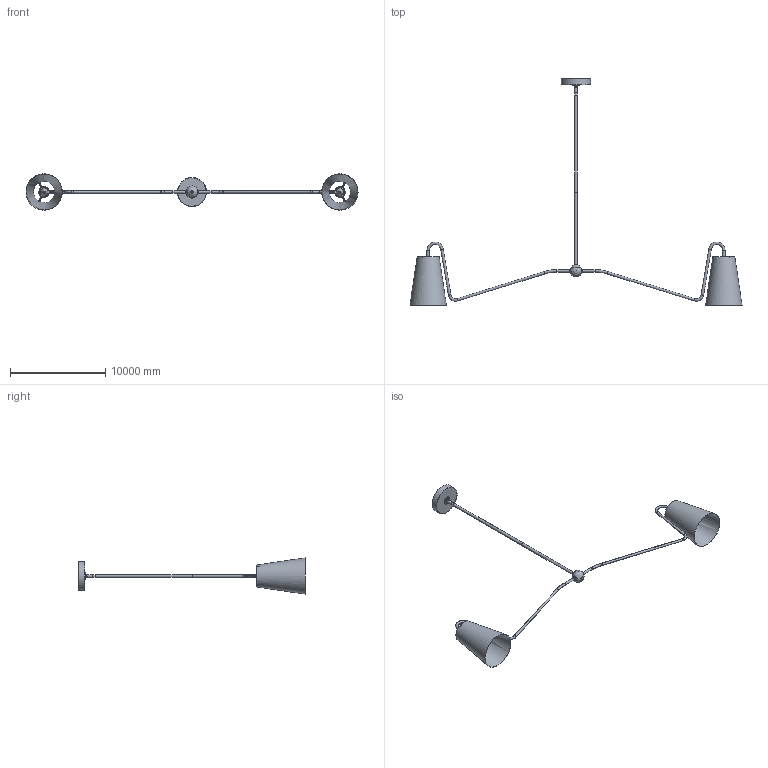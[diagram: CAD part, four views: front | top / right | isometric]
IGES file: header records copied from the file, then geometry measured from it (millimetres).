
Global section: file name: Jonas Linear Pendant Lamp; native system: AutoCAD 2022 - 简体中文 (Simplified Chinese),62HAuto; preprocessor: desk Translation Framework DWG producer (atf_dwg_producer); organization: unknown; date: 20251227.082810; units: inch
Bounding box: 34798 x 23707.24 x 3799.42 mm (x, y, z)
Volume: 6094086295.7 mm3; surface area: 378111270 mm2
Topology: 33 solids, 33 shells, 334 faces, 811 edges, 547 vertices
Faces by surface type: bspline 334
